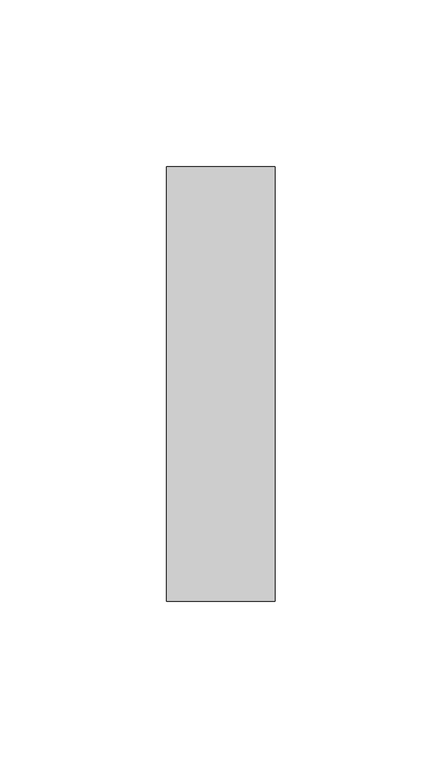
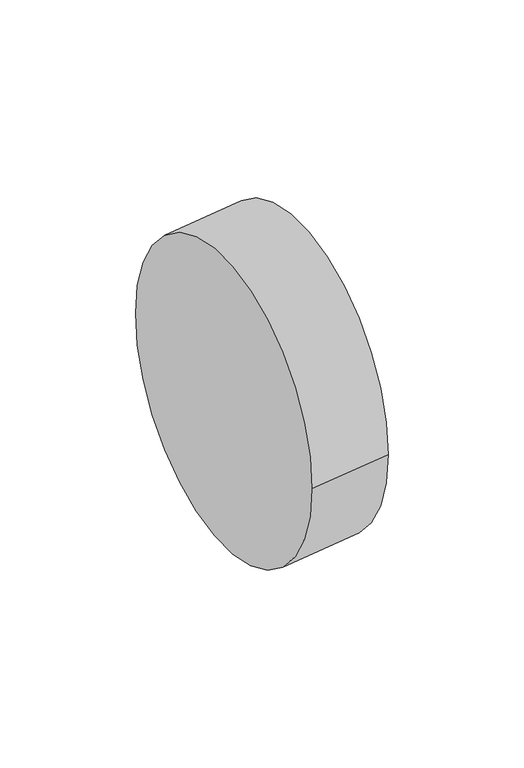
"""IFC4 building model written with IfcOpenShell, lengths in millimetres: pipe fitting geometry, M_Transición - Genérica : Estándar."""

from ifc_helpers import new_model, si_unit, point, frame, origin, place, context, project, spatial, circle_curve, trimmed, source, transform, mapped, element, save
from ifc_brep_helpers import plane_surface, extruded_surface, advanced_brep


def pipe_fitting_a1899b5d(model_context):
    return source(origin(), model_context, "Body", "AdvancedBrep", [
        advanced_brep(
        [(32.54375, -65.0954684, 4.0404089), (32.54375, 65.0795316, 4.0404089), (0.0, -65.0875, 0.0), (0.0, 65.0875, 0.0)],
        [
            (0, 1, circle_curve(frame((32.54375, -0.0079684, 4.0404089), z_axis=(1.0, 0.0, 0.0), x_axis=(0.0, 1.0, 0.0)), 65.0875)),
            (1, 0, circle_curve(frame((32.54375, -0.0079684, 4.0404089), z_axis=(1.0, 0.0, 0.0), x_axis=(0.0, 1.0, 0.0)), 65.0875)),
            (2, 3, circle_curve(frame((0.0, 0.0, 0.0), z_axis=(-1.0, 0.0, 0.0), x_axis=(0.0, 1.0, 0.0)), 65.0875)),
            (3, 2, circle_curve(frame((0.0, 0.0, 0.0), z_axis=(-1.0, 0.0, 0.0), x_axis=(0.0, 1.0, 0.0)), 65.0875)),
            (3, 1),
            (0, 2),
        ],
        [
            plane_surface(frame((32.54375, -0.0079684, 4.0404089), z_axis=(1.0, 0.0, 0.0), x_axis=(0.0, 0.0, -1.0))),
            plane_surface(frame((0.0, 0.0, 0.0), z_axis=(-1.0, 0.0, 0.0), x_axis=(0.0, 0.0, -1.0))),
            extruded_surface(trimmed(circle_curve(frame((0.0, 0.0, 0.0), z_axis=(1.0, 0.0, 0.0), x_axis=(0.0, 1.0, 0.0)), 65.0875), [point((0.0, -65.0875, 0.0))], [point((0.0, 65.0875, 0.0))], True, "CARTESIAN"), (32.54375, -0.0079684, 4.0404089), 32.79360656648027),
            extruded_surface(trimmed(circle_curve(frame((0.0, 0.0, 0.0), z_axis=(1.0, 0.0, 0.0), x_axis=(0.0, 1.0, 0.0)), 65.0875), [point((0.0, 65.0875, 0.0))], [point((0.0, -65.0875, 0.0))], True, "CARTESIAN"), (32.54375, -0.0079684, 4.0404089), 32.79360656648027),
        ],
        [
            (0, [[1, 2]]),
            (1, [[3, 4]]),
            (2, [[-4, 5, -1, 6]]),
            (3, [[-3, -6, -2, -5]]),
        ],
    ),
    ])


if __name__ == "__main__":
    model = new_model("IFC4")
    model_context = context("Model", 3, world=origin())
    ifc_project = project(units=[si_unit("LENGTHUNIT", "METRE", prefix="MILLI")], contexts=[model_context])
    site = spatial("IfcSite", under=ifc_project)
    building = spatial("IfcBuilding", under=site)
    placement = place(None, origin())
    pipe_fitting_shape = pipe_fitting_a1899b5d(model_context)
    element("IfcPipeFitting", 1, ObjectType="M_Transición - Genérica : Estándar", at=placement, inside=building, context=model_context, shape_type="MappedRepresentation", body=[
        mapped(pipe_fitting_shape, transform((0.0, 0.0, 0.0), x_axis=(1.0, 0.0, 0.0), y_axis=(0.0, 1.0, 0.0), z_axis=(0.0, 0.0, 1.0))),
    ])
    save(model, "model.ifc")
